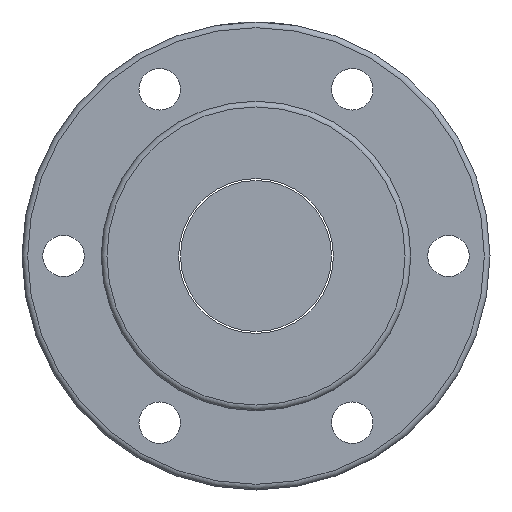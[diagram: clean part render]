
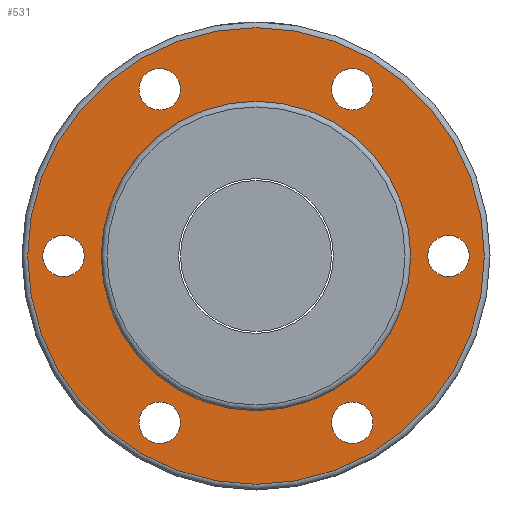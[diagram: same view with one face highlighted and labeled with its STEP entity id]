
A CAD part, left-side view. The second image highlights one B-rep face of the part: STEP entity #531.
In plain terms, the highlighted planar face has unit normal (-1, 0, 0).
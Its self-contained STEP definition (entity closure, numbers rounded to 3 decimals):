
#75=PLANE('',#633);
#143=ORIENTED_EDGE('',*,*,#214,.F.);
#144=ORIENTED_EDGE('',*,*,#213,.F.);
#145=ORIENTED_EDGE('',*,*,#209,.F.);
#146=ORIENTED_EDGE('',*,*,#205,.F.);
#147=ORIENTED_EDGE('',*,*,#201,.F.);
#148=ORIENTED_EDGE('',*,*,#197,.F.);
#149=ORIENTED_EDGE('',*,*,#220,.T.);
#150=ORIENTED_EDGE('',*,*,#221,.F.);
#197=EDGE_CURVE('',#248,#248,#290,.T.);
#201=EDGE_CURVE('',#252,#252,#294,.T.);
#205=EDGE_CURVE('',#256,#256,#298,.T.);
#209=EDGE_CURVE('',#260,#260,#302,.T.);
#213=EDGE_CURVE('',#264,#264,#306,.T.);
#214=EDGE_CURVE('',#265,#265,#307,.T.);
#220=EDGE_CURVE('',#271,#271,#313,.T.);
#221=EDGE_CURVE('',#272,#272,#314,.T.);
#248=VERTEX_POINT('',#873);
#252=VERTEX_POINT('',#884);
#256=VERTEX_POINT('',#895);
#260=VERTEX_POINT('',#906);
#264=VERTEX_POINT('',#917);
#265=VERTEX_POINT('',#920);
#271=VERTEX_POINT('',#937);
#272=VERTEX_POINT('',#940);
#290=CIRCLE('',#591,5.5);
#294=CIRCLE('',#598,5.5);
#298=CIRCLE('',#605,5.5);
#302=CIRCLE('',#612,5.5);
#306=CIRCLE('',#619,5.5);
#307=CIRCLE('',#621,60.5);
#313=CIRCLE('',#632,41.);
#314=CIRCLE('',#634,5.5);
#378=EDGE_LOOP('',(#143));
#379=EDGE_LOOP('',(#144));
#380=EDGE_LOOP('',(#145));
#381=EDGE_LOOP('',(#146));
#382=EDGE_LOOP('',(#147));
#383=EDGE_LOOP('',(#148));
#384=EDGE_LOOP('',(#149));
#385=EDGE_LOOP('',(#150));
#461=FACE_BOUND('',#378,.T.);
#462=FACE_BOUND('',#379,.T.);
#463=FACE_BOUND('',#380,.T.);
#464=FACE_BOUND('',#381,.T.);
#465=FACE_BOUND('',#382,.T.);
#466=FACE_BOUND('',#383,.T.);
#467=FACE_BOUND('',#384,.T.);
#468=FACE_BOUND('',#385,.T.);
#531=ADVANCED_FACE('',(#461,#462,#463,#464,#465,#466,#467,#468),#75,.T.);
#591=AXIS2_PLACEMENT_3D('',#872,#696,#697);
#598=AXIS2_PLACEMENT_3D('',#883,#710,#711);
#605=AXIS2_PLACEMENT_3D('',#894,#724,#725);
#612=AXIS2_PLACEMENT_3D('',#905,#738,#739);
#619=AXIS2_PLACEMENT_3D('',#916,#752,#753);
#621=AXIS2_PLACEMENT_3D('',#919,#756,#757);
#632=AXIS2_PLACEMENT_3D('',#936,#778,#779);
#633=AXIS2_PLACEMENT_3D('',#938,#780,#781);
#634=AXIS2_PLACEMENT_3D('',#939,#782,#783);
#696=DIRECTION('',(-1.,0.,0.));
#697=DIRECTION('',(0.,-1.,0.));
#710=DIRECTION('',(-1.,0.,0.));
#711=DIRECTION('',(0.,-1.,0.));
#724=DIRECTION('',(-1.,0.,0.));
#725=DIRECTION('',(0.,-1.,0.));
#738=DIRECTION('',(-1.,0.,0.));
#739=DIRECTION('',(0.,-1.,0.));
#752=DIRECTION('',(-1.,0.,0.));
#753=DIRECTION('',(0.,-1.,0.));
#756=DIRECTION('',(1.,0.,0.));
#757=DIRECTION('',(0.,1.,0.));
#778=DIRECTION('',(1.,0.,0.));
#779=DIRECTION('',(0.,1.,0.));
#780=DIRECTION('',(-1.,0.,0.));
#781=DIRECTION('',(0.,1.,0.));
#782=DIRECTION('',(-1.,0.,0.));
#783=DIRECTION('',(0.,-1.,0.));
#872=CARTESIAN_POINT('',(-33.,-51.,0.));
#873=CARTESIAN_POINT('',(-33.,-56.5,0.));
#883=CARTESIAN_POINT('',(-33.,25.5,-44.167));
#884=CARTESIAN_POINT('',(-33.,20.,-44.167));
#894=CARTESIAN_POINT('',(-33.,-25.5,-44.167));
#895=CARTESIAN_POINT('',(-33.,-31.,-44.167));
#905=CARTESIAN_POINT('',(-33.,-25.5,44.167));
#906=CARTESIAN_POINT('',(-33.,-31.,44.167));
#916=CARTESIAN_POINT('',(-33.,25.5,44.167));
#917=CARTESIAN_POINT('',(-33.,20.,44.167));
#919=CARTESIAN_POINT('',(-33.,0.,0.));
#920=CARTESIAN_POINT('',(-33.,60.5,0.));
#936=CARTESIAN_POINT('',(-33.,0.,0.));
#937=CARTESIAN_POINT('',(-33.,41.,0.));
#938=CARTESIAN_POINT('',(-33.,50.75,0.));
#939=CARTESIAN_POINT('',(-33.,51.,0.));
#940=CARTESIAN_POINT('',(-33.,45.5,0.));
